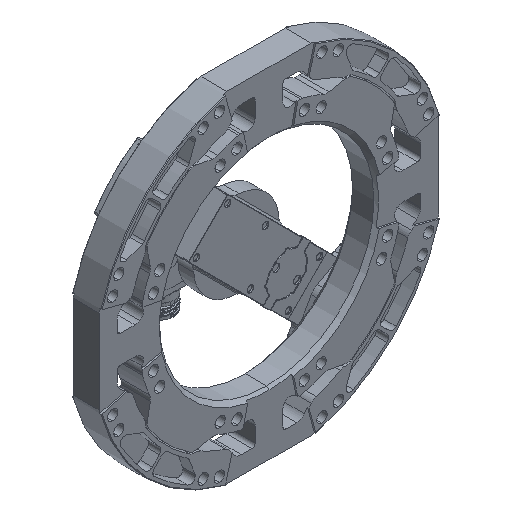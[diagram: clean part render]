
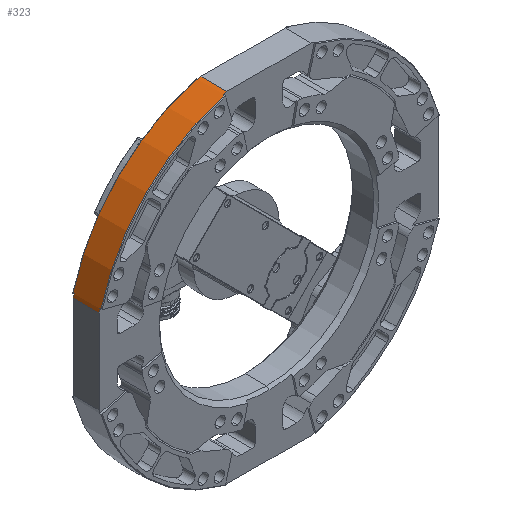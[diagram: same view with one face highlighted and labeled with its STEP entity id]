
A CAD part, isometric view. The second image highlights one B-rep face of the part: STEP entity #323.
In plain terms, the highlighted cylindrical face has radius 136.843 mm (diameter 273.685 mm), a partial arc.
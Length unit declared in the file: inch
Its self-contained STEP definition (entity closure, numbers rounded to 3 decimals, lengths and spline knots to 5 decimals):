
#75 = CIRCLE ( 'NONE', #43867, 5.3875 ) ;
#323 = ADVANCED_FACE ( 'NONE', ( #42542 ), #17927, .T. ) ;
#844 = CARTESIAN_POINT ( 'NONE',  ( -5.20393, -0.4, 1.39439 ) ) ;
#4375 = DIRECTION ( 'NONE',  ( 1., 0., 0. ) ) ;
#4461 = VERTEX_POINT ( 'NONE', #844 ) ;
#4555 = CARTESIAN_POINT ( 'NONE',  ( -5.20393, -0.43, 1.39439 ) ) ;
#4769 = VERTEX_POINT ( 'NONE', #26836 ) ;
#5072 = DIRECTION ( 'NONE',  ( 0., 1., 0. ) ) ;
#5504 = VERTEX_POINT ( 'NONE', #29908 ) ;
#5539 = CARTESIAN_POINT ( 'NONE',  ( -1.29316, -0.4, 5.23 ) ) ;
#5724 = EDGE_CURVE ( 'NONE', #60980, #28020, #18017, .T. ) ;
#6034 = CARTESIAN_POINT ( 'NONE',  ( -1.39439, -0.43, 5.20393 ) ) ;
#7318 = AXIS2_PLACEMENT_3D ( 'NONE', #18350, #52891, #8479 ) ;
#7520 = VERTEX_POINT ( 'NONE', #6034 ) ;
#8479 = DIRECTION ( 'NONE',  ( 1., 0., 0. ) ) ;
#9476 = ORIENTED_EDGE ( 'NONE', *, *, #28386, .F. ) ;
#9583 = EDGE_CURVE ( 'NONE', #52454, #61362, #47472, .T. ) ;
#9621 = ORIENTED_EDGE ( 'NONE', *, *, #21288, .T. ) ;
#10325 = DIRECTION ( 'NONE',  ( 0., 0., -1. ) ) ;
#10855 = LINE ( 'NONE', #58523, #19563 ) ;
#11402 = ORIENTED_EDGE ( 'NONE', *, *, #37288, .F. ) ;
#12871 = AXIS2_PLACEMENT_3D ( 'NONE', #45098, #62341, #42806 ) ;
#13204 = EDGE_LOOP ( 'NONE', ( #30156, #50864, #35397, #9621, #38062, #14882, #9476, #28043, #61726, #11402, #17855, #59530 ) ) ;
#14882 = ORIENTED_EDGE ( 'NONE', *, *, #56455, .F. ) ;
#15025 = EDGE_CURVE ( 'NONE', #19538, #45925, #45516, .T. ) ;
#15881 = EDGE_CURVE ( 'NONE', #5504, #61362, #58748, .T. ) ;
#17218 = AXIS2_PLACEMENT_3D ( 'NONE', #27301, #38786, #10325 ) ;
#17855 = ORIENTED_EDGE ( 'NONE', *, *, #44345, .T. ) ;
#17927 = CYLINDRICAL_SURFACE ( 'NONE', #31708, 5.3875 ) ;
#18017 = LINE ( 'NONE', #43592, #40941 ) ;
#18350 = CARTESIAN_POINT ( 'NONE',  ( 0., -0.4, 0. ) ) ;
#18572 = VECTOR ( 'NONE', #5072, 39.37008 ) ;
#19538 = VERTEX_POINT ( 'NONE', #5539 ) ;
#19563 = VECTOR ( 'NONE', #30323, 39.37008 ) ;
#20039 = CARTESIAN_POINT ( 'NONE',  ( -5.23, -0.4, 1.29316 ) ) ;
#21288 = EDGE_CURVE ( 'NONE', #60980, #4461, #34862, .T. ) ;
#23443 = DIRECTION ( 'NONE',  ( 0., -1., 0. ) ) ;
#23878 = DIRECTION ( 'NONE',  ( 0., 0., -1. ) ) ;
#24711 = LINE ( 'NONE', #62476, #46540 ) ;
#25121 = CARTESIAN_POINT ( 'NONE',  ( 0., -0.43, 0. ) ) ;
#26836 = CARTESIAN_POINT ( 'NONE',  ( -1.39439, 0.4, 5.20393 ) ) ;
#27301 = CARTESIAN_POINT ( 'NONE',  ( 0., -0.4, 0. ) ) ;
#28020 = VERTEX_POINT ( 'NONE', #55314 ) ;
#28043 = ORIENTED_EDGE ( 'NONE', *, *, #41258, .T. ) ;
#28386 = EDGE_CURVE ( 'NONE', #45396, #7520, #24711, .T. ) ;
#29187 = VECTOR ( 'NONE', #32409, 39.37008 ) ;
#29908 = CARTESIAN_POINT ( 'NONE',  ( -5.20393, 0.4, 1.39439 ) ) ;
#30156 = ORIENTED_EDGE ( 'NONE', *, *, #15881, .F. ) ;
#30323 = DIRECTION ( 'NONE',  ( 0., 1., 0. ) ) ;
#30767 = DIRECTION ( 'NONE',  ( 0., -1., 0. ) ) ;
#30814 = CARTESIAN_POINT ( 'NONE',  ( -5.20393, 0.43, 1.39439 ) ) ;
#31121 = CARTESIAN_POINT ( 'NONE',  ( -1.29316, -0.45, 5.23 ) ) ;
#31708 = AXIS2_PLACEMENT_3D ( 'NONE', #33587, #58238, #47037 ) ;
#32409 = DIRECTION ( 'NONE',  ( 0., -1., 0. ) ) ;
#33405 = CIRCLE ( 'NONE', #51757, 5.3875 ) ;
#33565 = CARTESIAN_POINT ( 'NONE',  ( -1.29316, 0.4, 5.23 ) ) ;
#33587 = CARTESIAN_POINT ( 'NONE',  ( 0., 0., 0. ) ) ;
#33696 = CARTESIAN_POINT ( 'NONE',  ( -5.20393, -0.4, 1.39439 ) ) ;
#34862 = CIRCLE ( 'NONE', #7318, 5.3875 ) ;
#35397 = ORIENTED_EDGE ( 'NONE', *, *, #5724, .F. ) ;
#37288 = EDGE_CURVE ( 'NONE', #4769, #45925, #40435, .T. ) ;
#38062 = ORIENTED_EDGE ( 'NONE', *, *, #52416, .T. ) ;
#38242 = EDGE_CURVE ( 'NONE', #28020, #5504, #33405, .T. ) ;
#38786 = DIRECTION ( 'NONE',  ( 0., 1., 0. ) ) ;
#39080 = VECTOR ( 'NONE', #55140, 39.37008 ) ;
#40082 = CARTESIAN_POINT ( 'NONE',  ( -1.39439, 0.43, 5.20393 ) ) ;
#40435 = CIRCLE ( 'NONE', #12871, 5.3875 ) ;
#40941 = VECTOR ( 'NONE', #62492, 39.37008 ) ;
#41258 = EDGE_CURVE ( 'NONE', #45396, #19538, #49872, .T. ) ;
#42349 = VERTEX_POINT ( 'NONE', #4555 ) ;
#42542 = FACE_OUTER_BOUND ( 'NONE', #13204, .T. ) ;
#42806 = DIRECTION ( 'NONE',  ( 0., 0., -1. ) ) ;
#43592 = CARTESIAN_POINT ( 'NONE',  ( -5.23, -0.45, 1.29316 ) ) ;
#43867 = AXIS2_PLACEMENT_3D ( 'NONE', #25121, #54231, #23878 ) ;
#44345 = EDGE_CURVE ( 'NONE', #4769, #52454, #10855, .T. ) ;
#45098 = CARTESIAN_POINT ( 'NONE',  ( 0., 0.4, 0. ) ) ;
#45396 = VERTEX_POINT ( 'NONE', #46446 ) ;
#45516 = LINE ( 'NONE', #31121, #39080 ) ;
#45925 = VERTEX_POINT ( 'NONE', #33565 ) ;
#46446 = CARTESIAN_POINT ( 'NONE',  ( -1.39439, -0.4, 5.20393 ) ) ;
#46540 = VECTOR ( 'NONE', #23443, 39.37008 ) ;
#47037 = DIRECTION ( 'NONE',  ( 0., 0., -1. ) ) ;
#47147 = LINE ( 'NONE', #33696, #29187 ) ;
#47472 = CIRCLE ( 'NONE', #51554, 5.3875 ) ;
#48095 = DIRECTION ( 'NONE',  ( 0., 1., 0. ) ) ;
#49872 = CIRCLE ( 'NONE', #17218, 5.3875 ) ;
#50864 = ORIENTED_EDGE ( 'NONE', *, *, #38242, .F. ) ;
#51554 = AXIS2_PLACEMENT_3D ( 'NONE', #55097, #30767, #60533 ) ;
#51757 = AXIS2_PLACEMENT_3D ( 'NONE', #58352, #48095, #4375 ) ;
#52416 = EDGE_CURVE ( 'NONE', #4461, #42349, #47147, .T. ) ;
#52454 = VERTEX_POINT ( 'NONE', #40082 ) ;
#52891 = DIRECTION ( 'NONE',  ( 0., 1., 0. ) ) ;
#53317 = CARTESIAN_POINT ( 'NONE',  ( -5.20393, 0.4, 1.39439 ) ) ;
#54231 = DIRECTION ( 'NONE',  ( 0., -1., 0. ) ) ;
#55097 = CARTESIAN_POINT ( 'NONE',  ( 0., 0.43, 0. ) ) ;
#55140 = DIRECTION ( 'NONE',  ( 0., 1., 0. ) ) ;
#55314 = CARTESIAN_POINT ( 'NONE',  ( -5.23, 0.4, 1.29316 ) ) ;
#56455 = EDGE_CURVE ( 'NONE', #7520, #42349, #75, .T. ) ;
#58238 = DIRECTION ( 'NONE',  ( 0., -1., 0. ) ) ;
#58352 = CARTESIAN_POINT ( 'NONE',  ( 0., 0.4, 0. ) ) ;
#58523 = CARTESIAN_POINT ( 'NONE',  ( -1.39439, 0.4, 5.20393 ) ) ;
#58748 = LINE ( 'NONE', #53317, #18572 ) ;
#59530 = ORIENTED_EDGE ( 'NONE', *, *, #9583, .T. ) ;
#60533 = DIRECTION ( 'NONE',  ( 0., 0., -1. ) ) ;
#60980 = VERTEX_POINT ( 'NONE', #20039 ) ;
#61362 = VERTEX_POINT ( 'NONE', #30814 ) ;
#61726 = ORIENTED_EDGE ( 'NONE', *, *, #15025, .T. ) ;
#62341 = DIRECTION ( 'NONE',  ( 0., 1., 0. ) ) ;
#62476 = CARTESIAN_POINT ( 'NONE',  ( -1.39439, -0.4, 5.20393 ) ) ;
#62492 = DIRECTION ( 'NONE',  ( 0., 1., 0. ) ) ;
